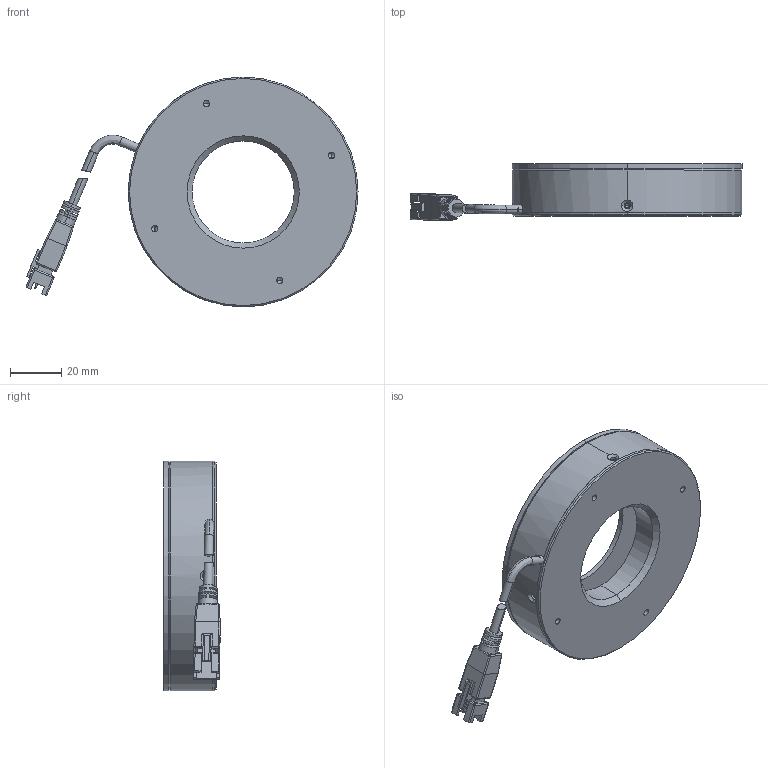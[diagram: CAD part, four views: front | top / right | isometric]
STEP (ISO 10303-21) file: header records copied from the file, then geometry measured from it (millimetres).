
FILE_DESCRIPTION (( 'STEP AP203' ), '1' );
FILE_NAME ('P-RL-90-90-4-00.STEP', '2026-03-13T08:18:48', ( '' ), ( '' ), 'SwSTEP 2.0', 'SolidWorks 2022', '' );
FILE_SCHEMA (( 'CONFIG_CONTROL_DESIGN' ));
Length unit declared in the file: millimetre
Products named in the file (6): P-RL-90-90-4-00; P-RL-90-90-4-001; P-RL-90-90-4-003; P-RL-90-90-4-002; 光源线; 9090灯珠-00
Assembly tree (5 placements, depth 2):
  P-RL-90-90-4-00
    P-RL-90-90-4-001
    P-RL-90-90-4-002
    P-RL-90-90-4-003
    9090灯珠-00
    光源线
Bounding box: 130.11 x 22.15 x 90 mm (x, y, z)
Volume: 54709.1 mm3; surface area: 42622.6 mm2
Topology: 7 solids, 7 shells, 340 faces, 849 edges, 510 vertices
Faces by surface type: plane 131, cylinder 125, cone 48, bspline 20, torus 16
Entity records: 11325 total; most frequent: CARTESIAN_POINT 2761, DIRECTION 1685, ORIENTED_EDGE 1626, EDGE_CURVE 813, AXIS2_PLACEMENT_3D 624, VERTEX_POINT 510, LINE 437, VECTOR 437
